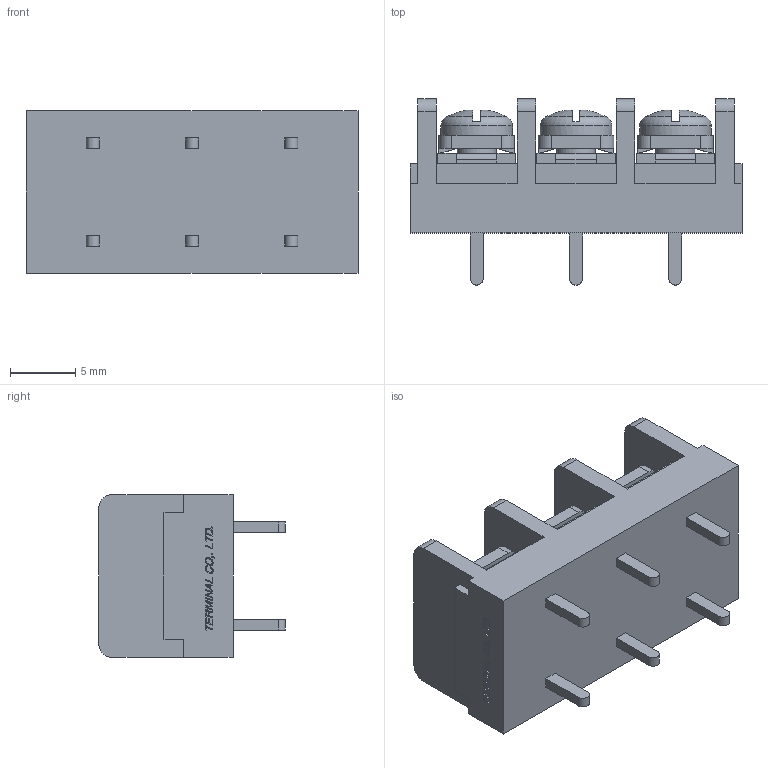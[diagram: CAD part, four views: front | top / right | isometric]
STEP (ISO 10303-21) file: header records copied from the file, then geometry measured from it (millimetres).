
FILE_DESCRIPTION(/* description */ ('Alibre Inc.'),/* implementation_level */ '2;1');
FILE_NAME(/* name */ 'export0',/* time_stamp */ '2015-10-26T18:16:40+09:00',/* author */ (''),/* organization */ (''),/* preprocessor_version */ 'ST-DEVELOPER v14',/* originating_system */ 'Alibre',/* authorisation */ '');
FILE_SCHEMA (('CONFIG_CONTROL_DESIGN'));
Length unit declared in the file: centimetre
Products named in the file (1): ID_1
Bounding box: 25.48 x 14.3 x 12.5 mm (x, y, z)
Volume: 2325.8 mm3; surface area: 2241 mm2
Topology: 1 solids, 1 shells, 689 faces, 1866 edges, 1234 vertices
Faces by surface type: plane 523, bspline 104, cylinder 38, cone 12, torus 6, sphere 6
Full cylindrical faces by diameter (mm): 3 x3, 5.5 x3
Entity records: 20753 total; most frequent: CARTESIAN_POINT 4808, ORIENTED_EDGE 3696, DIRECTION 2336, EDGE_CURVE 1848, VECTOR 1384, LINE 1384, VERTEX_POINT 1228, EDGE_LOOP 756
